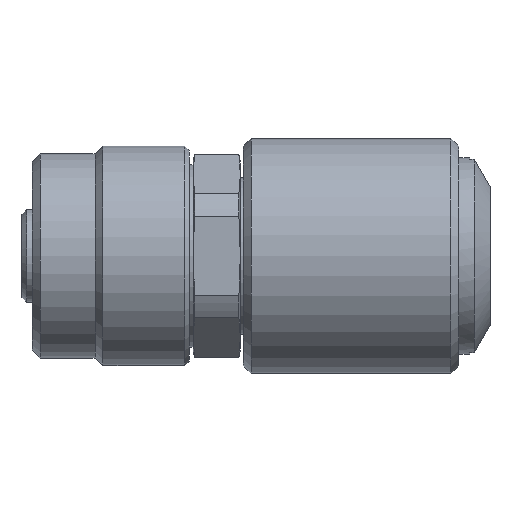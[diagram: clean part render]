
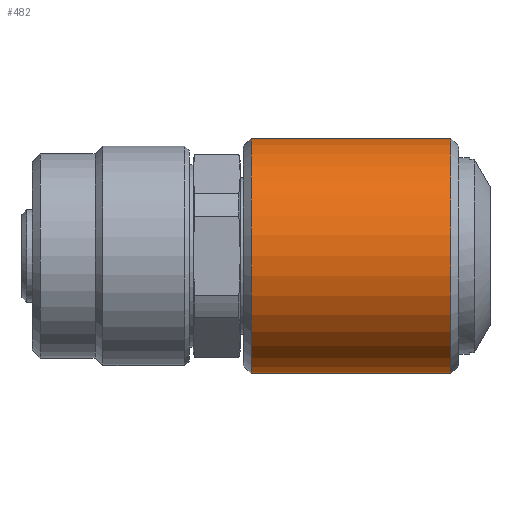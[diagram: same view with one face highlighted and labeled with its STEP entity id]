
A CAD part, top view. The second image highlights one B-rep face of the part: STEP entity #482.
In plain terms, the highlighted cylindrical face has radius 7.5 mm (diameter 15 mm), a full revolution.
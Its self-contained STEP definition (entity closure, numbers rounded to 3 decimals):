
#422=CYLINDRICAL_SURFACE('',#1539,7.5);
#449=B_SPLINE_CURVE_WITH_KNOTS('',3,(#2133,#2134,#2135,#2136,#2137,#2138,
#2139,#2140,#2141,#2142,#2143,#2144,#2145,#2146,#2147,#2148,#2149,#2150,
#2151,#2152),.UNSPECIFIED.,.T.,.F.,(2,2,2,2,2,2,2,2,2,2,2,2),(-0.125,0.,
0.125,0.188,0.25,0.375,0.5,0.625,0.75,0.875,1.,1.125),.UNSPECIFIED.);
#482=ADVANCED_FACE('',(#615,#616,#617),#422,.T.);
#615=FACE_BOUND('',#725,.T.);
#616=FACE_BOUND('',#726,.T.);
#617=FACE_BOUND('',#727,.T.);
#725=EDGE_LOOP('',(#880));
#726=EDGE_LOOP('',(#881));
#727=EDGE_LOOP('',(#882));
#880=ORIENTED_EDGE('',*,*,#1295,.T.);
#881=ORIENTED_EDGE('',*,*,#1296,.T.);
#882=ORIENTED_EDGE('',*,*,#1297,.T.);
#1180=VERTEX_POINT('',#2130);
#1181=VERTEX_POINT('',#2132);
#1182=VERTEX_POINT('',#2153);
#1295=EDGE_CURVE('',#1180,#1180,#1445,.T.);
#1296=EDGE_CURVE('',#1181,#1181,#1446,.T.);
#1297=EDGE_CURVE('',#1182,#1182,#449,.T.);
#1445=CIRCLE('',#1537,7.5);
#1446=CIRCLE('',#1538,7.5);
#1537=AXIS2_PLACEMENT_3D('',#2129,#1730,#1731);
#1538=AXIS2_PLACEMENT_3D('',#2131,#1732,#1733);
#1539=AXIS2_PLACEMENT_3D('',#2154,#1734,#1735);
#1730=DIRECTION('',(-1.,0.,0.));
#1731=DIRECTION('',(0.,0.,-1.));
#1732=DIRECTION('',(1.,0.,0.));
#1733=DIRECTION('',(0.,0.,-1.));
#1734=DIRECTION('',(1.,0.,0.));
#1735=DIRECTION('',(0.,0.,1.));
#2129=CARTESIAN_POINT('',(19.5,0.,0.));
#2130=CARTESIAN_POINT('',(19.5,0.,-7.5));
#2131=CARTESIAN_POINT('',(6.8,0.,0.));
#2132=CARTESIAN_POINT('',(6.8,0.,-7.5));
#2133=CARTESIAN_POINT('',(7.65,1.521,-7.5));
#2134=CARTESIAN_POINT('',(7.65,-1.521,-7.5));
#2135=CARTESIAN_POINT('',(8.297,-2.934,-6.996));
#2136=CARTESIAN_POINT('',(9.77,-4.394,-6.105));
#2137=CARTESIAN_POINT('',(10.343,-4.783,-5.789));
#2138=CARTESIAN_POINT('',(11.647,-5.338,-5.282));
#2139=CARTESIAN_POINT('',(12.396,-5.499,-5.1));
#2140=CARTESIAN_POINT('',(14.644,-5.501,-5.098));
#2141=CARTESIAN_POINT('',(16.022,-4.893,-5.798));
#2142=CARTESIAN_POINT('',(18.002,-2.94,-6.994));
#2143=CARTESIAN_POINT('',(18.645,-1.515,-7.497));
#2144=CARTESIAN_POINT('',(18.655,1.481,-7.503));
#2145=CARTESIAN_POINT('',(18.007,2.928,-6.999));
#2146=CARTESIAN_POINT('',(16.044,4.877,-5.811));
#2147=CARTESIAN_POINT('',(14.678,5.498,-5.101));
#2148=CARTESIAN_POINT('',(11.634,5.502,-5.097));
#2149=CARTESIAN_POINT('',(10.266,4.882,-5.806));
#2150=CARTESIAN_POINT('',(8.305,2.946,-6.99));
#2151=CARTESIAN_POINT('',(7.65,1.521,-7.5));
#2152=CARTESIAN_POINT('',(7.65,-1.521,-7.5));
#2153=CARTESIAN_POINT('',(7.65,0.,-7.5));
#2154=CARTESIAN_POINT('',(0.,0.,0.));
